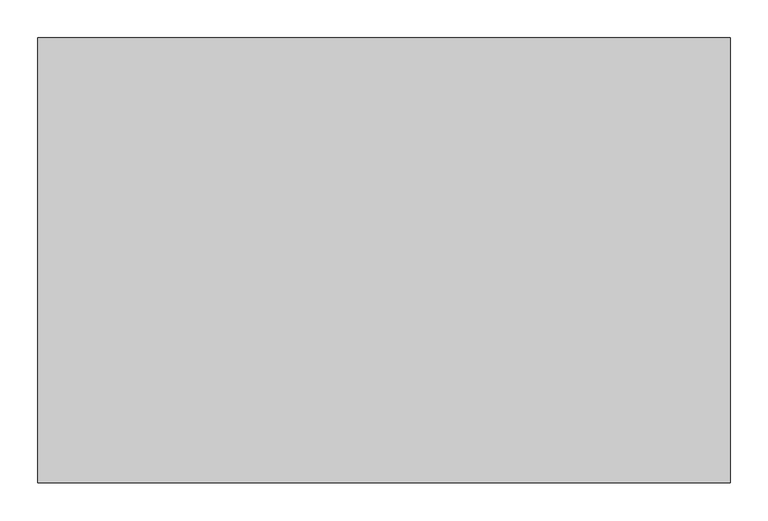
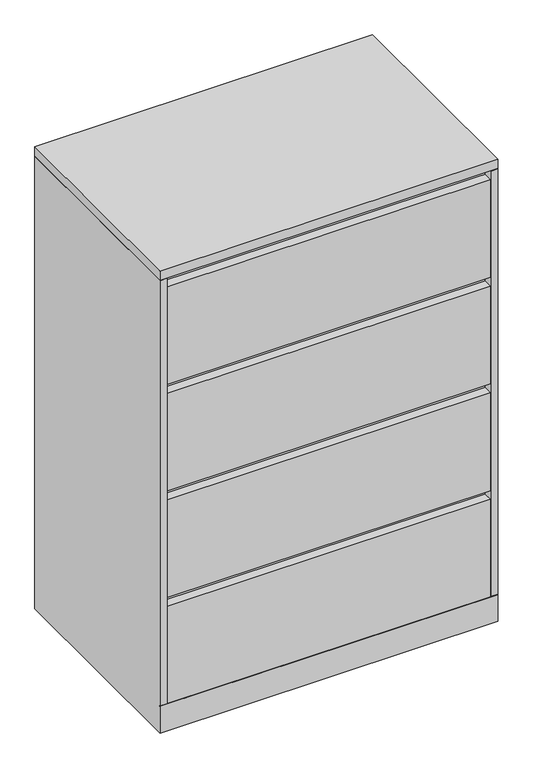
"""IFC4 building model written with IfcOpenShell, lengths in millimetres: furniture geometry, Steelcase - Universal Storage - Lateral File - 3 and 4 High - Flush Steel : 4 Drawers - 23 1/8D x 36W."""

from ifc_helpers import new_model, si_unit, frame, origin, place, context, project, spatial, polyline, outline, extrude, faceted_brep, source, transform, mapped, element, save


def furniture_5b35cf26(model_context):
    return source(origin(), model_context, "Body", "SolidModel", [
        extrude(outline(polyline([(914.4, 587.502), (914.4, 0.0), (0.0, 0.0), (0.0, 587.502), (914.4, 587.502)])), frame((0.0, 0.0, 1295.4), z_axis=(0.0, 0.0, 1.0), x_axis=(1.0, 0.0, 0.0)), (0.0, 0.0, 1.0), 25.4),
        faceted_brep([(914.4, 0.0, 0.0), (914.4, 587.502, 0.0), (914.4, 587.502, 1293.8759651), (914.4, 0.0, 1293.8759651), (914.4, 0.0, 77.7239985), (914.4, 1.524, 77.7239985), (914.4, 1.524, 76.2), (914.4, 0.0, 76.2), (0.0, 0.0, 0.0), (0.0, 0.0, 76.2), (0.0, 1.524, 76.2), (0.0, 1.524, 77.7239985), (0.0, 0.0, 77.7239985), (0.0, 0.0, 1293.8759651), (0.0, 587.502, 1293.8759651), (0.0, 587.502, 0.0), (19.304, 0.0, 1293.8759651), (19.304, 25.4000121, 1293.8759651), (895.096, 25.4000121, 1293.8759651), (895.096, 0.0, 1293.8759651), (19.304, 25.4000121, 101.600003), (895.096, 25.4000121, 101.600003), (19.304, 1.524, 101.600003), (895.096, 1.524, 101.600003), (895.096, 1.524, 77.7239985), (19.304, 1.524, 77.7239985), (19.304, 0.0, 77.7239985), (895.096, 0.0, 77.7239985)], [[[0, 1, 2, 3, 4, 5, 6, 7]], [[8, 9, 10, 11, 12, 13, 14, 15]], [[1, 0, 8, 15]], [[2, 1, 15, 14]], [[3, 2, 14, 13, 16, 17, 18, 19]], [[17, 20, 21, 18]], [[20, 22, 23, 21]], [[10, 6, 5, 24, 23, 22, 25, 11]], [[7, 6, 10, 9]], [[0, 7, 9, 8]], [[17, 16, 26, 25, 22, 20]], [[26, 16, 13, 12]], [[25, 26, 12, 11]], [[24, 27, 19, 18, 21, 23]], [[27, 24, 5, 4]], [[19, 27, 4, 3]]]),
        extrude(outline(polyline([(889.0000242, 562.1019992), (889.0000242, 25.4000121), (25.4000008, 25.4000121), (25.4000008, 562.1019992), (889.0000242, 562.1019992)])), frame((0.0, 0.0, 1293.8759651), z_axis=(0.0, 0.0, 1.0), x_axis=(1.0, 0.0, 0.0)), (0.0, 0.0, 1.0), 1.5240349),
        extrude(outline(polyline([(893.5719835, 0.0), (20.8280006, 0.0), (20.8280006, 25.4000121), (893.5719835, 25.4000121), (893.5719835, 0.0)])), frame((0.0, 0.0, 990.6), z_axis=(0.0, 0.0, 1.0), x_axis=(1.0, 0.0, 0.0)), (0.0, 0.0, 1.0), 279.4),
        extrude(outline(polyline([(893.5719835, 0.0), (20.8280006, 0.0), (20.8280006, 25.4000121), (893.5719835, 25.4000121), (893.5719835, 0.0)])), frame((0.0, 0.0, 685.8), z_axis=(0.0, 0.0, 1.0), x_axis=(1.0, 0.0, 0.0)), (0.0, 0.0, 1.0), 279.4),
        extrude(outline(polyline([(893.5719835, 0.0), (20.8280006, 0.0), (20.8280006, 25.4000121), (893.5719835, 25.4000121), (893.5719835, 0.0)])), frame((0.0, 0.0, 381.0), z_axis=(0.0, 0.0, 1.0), x_axis=(1.0, 0.0, 0.0)), (0.0, 0.0, 1.0), 279.4),
        extrude(outline(polyline([(893.5719835, 0.0), (20.8280006, 0.0), (20.8280006, 25.4000121), (893.5719835, 25.4000121), (893.5719835, 0.0)])), frame((0.0, 0.0, 77.7239985), z_axis=(0.0, 0.0, 1.0), x_axis=(1.0, 0.0, 0.0)), (0.0, 0.0, 1.0), 277.8759893),
    ])


if __name__ == "__main__":
    model = new_model("IFC4")
    model_context = context("Model", 3, world=origin())
    ifc_project = project(units=[si_unit("LENGTHUNIT", "METRE", prefix="MILLI")], contexts=[model_context])
    site = spatial("IfcSite", under=ifc_project)
    building = spatial("IfcBuilding", under=site)
    placement = place(None, origin())
    furniture_shape = furniture_5b35cf26(model_context)
    element("IfcFurniture", 1, ObjectType="Steelcase - Universal Storage - Lateral File - 3 and 4 High - Flush Steel : 4 Drawers - 23 1/8D x 36W", at=placement, inside=building, context=model_context, shape_type="MappedRepresentation", body=[
        mapped(furniture_shape, transform((0.0, 0.0, 0.0), x_axis=(1.0, 0.0, 0.0), y_axis=(0.0, 1.0, 0.0), z_axis=(0.0, 0.0, 1.0))),
    ])
    save(model, "model.ifc")
